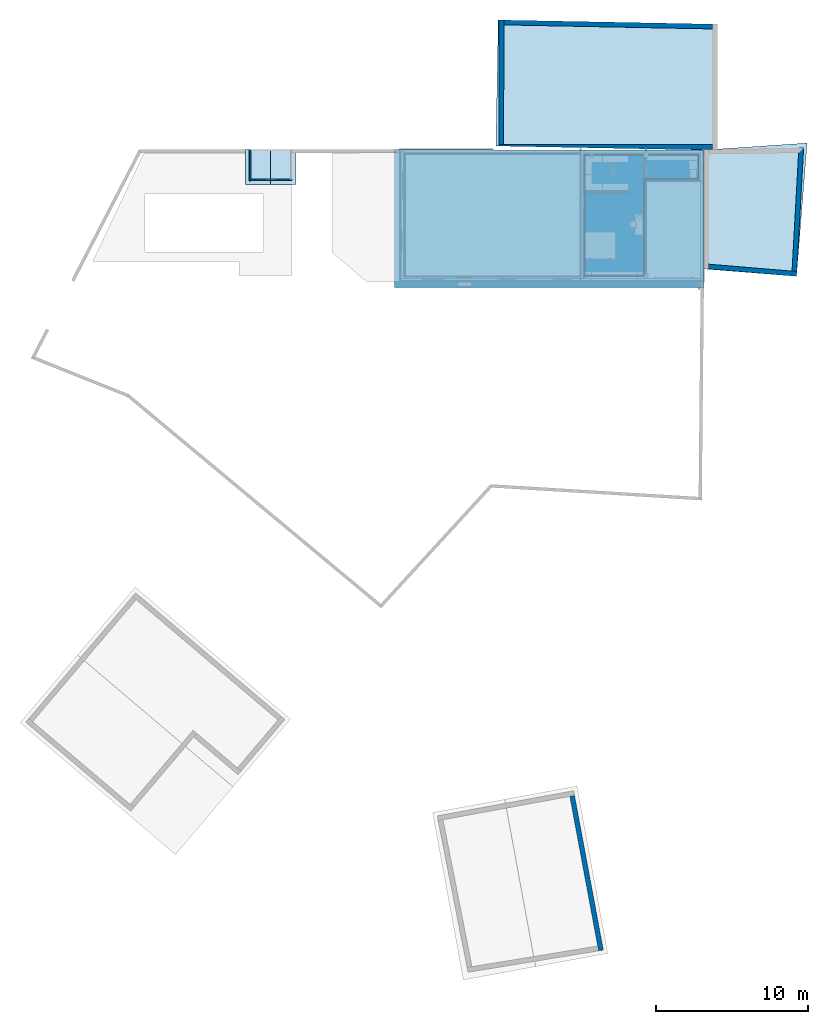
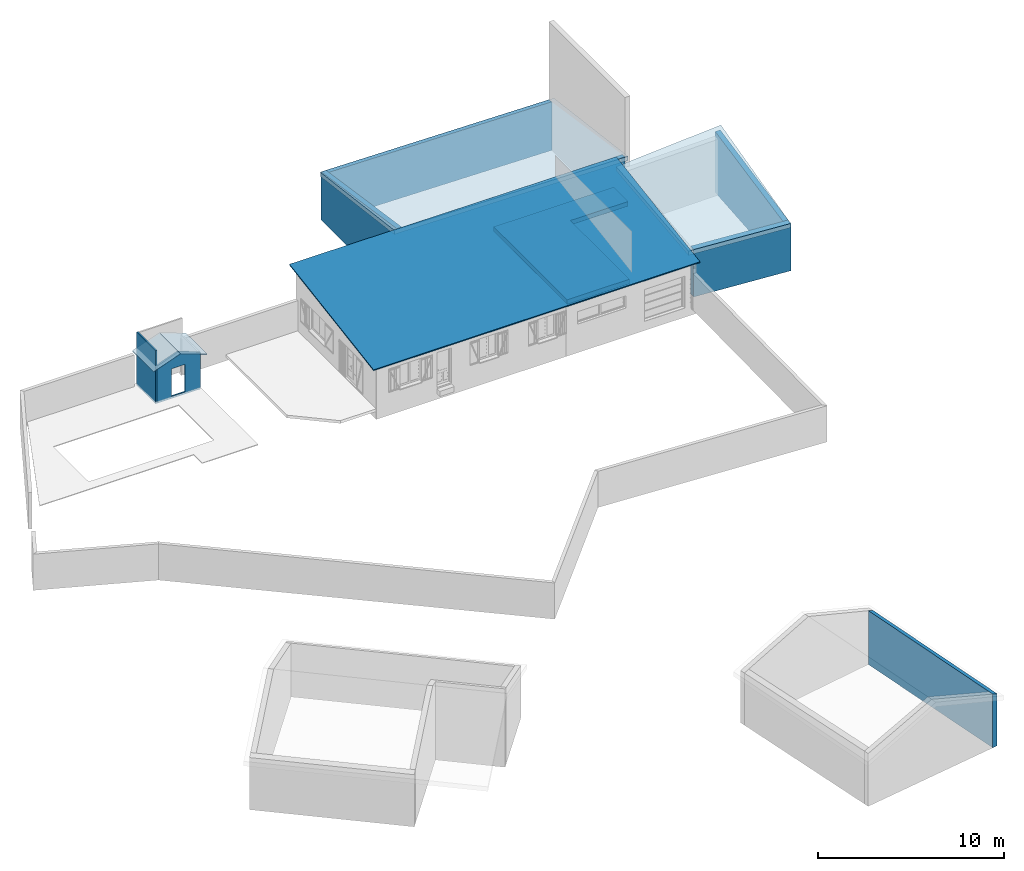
# One storey, part 2 of 24: 8 walls, 5 building element parts, 3 roofs, 1 opening, 2 elements without a shape of their own.
"""IFC2X3 building model written with IfcOpenShell, lengths in metres."""

from ifc_helpers import new_model, entity, si_unit, converted_unit, derived_unit, money_unit, direction, frame, origin_with_axes, origin_2d_with_axis, place, context, subcontext, project, spatial, polyline, rectangle, outline, extrude, boolean, faceted_brep, material, type_object, element, aggregate, save


model = new_model("IFC2X3")

# Units and contexts
model_context = context("Model", 3, precision=1e-05, world=origin_with_axes(), true_north=direction((0.0, 1.0)))
body_context = subcontext(model_context, "Body", "Model", "MODEL_VIEW")
ifc_project = project(units=[si_unit("LENGTHUNIT", "METRE"), si_unit("AREAUNIT", "SQUARE_METRE"), si_unit("VOLUMEUNIT", "CUBIC_METRE"), converted_unit("PLANEANGLEUNIT", "DEGREE", entity("IfcPlaneAngleMeasure", 0.0174532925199), si_unit("PLANEANGLEUNIT", "RADIAN"), dimensions=[0, 0, 0, 0, 0, 0, 0]), si_unit("SOLIDANGLEUNIT", "STERADIAN"), money_unit("CHF"), converted_unit("TIMEUNIT", "Year", entity("IfcTimeMeasure", 31556926.0), si_unit("TIMEUNIT", "SECOND"), dimensions=[0, 0, 1, 0, 0, 0, 0]), si_unit("MASSUNIT", "GRAM", prefix="KILO"), si_unit("THERMODYNAMICTEMPERATUREUNIT", "DEGREE_CELSIUS"), si_unit("LUMINOUSINTENSITYUNIT", "LUMEN"), si_unit("ENERGYUNIT", "JOULE", prefix="MEGA"), derived_unit("THERMALCONDUCTANCEUNIT", [(si_unit("POWERUNIT", "WATT"), 1), (si_unit("LENGTHUNIT", "METRE"), -1), (si_unit("THERMODYNAMICTEMPERATUREUNIT", "KELVIN"), -1)]), derived_unit("SPECIFICHEATCAPACITYUNIT", [(si_unit("ENERGYUNIT", "JOULE"), 1), (si_unit("MASSUNIT", "GRAM", prefix="KILO"), -1), (si_unit("THERMODYNAMICTEMPERATUREUNIT", "KELVIN"), -1)]), derived_unit("MASSDENSITYUNIT", [(si_unit("MASSUNIT", "GRAM", prefix="KILO"), 1), (si_unit("VOLUMEUNIT", "CUBIC_METRE"), -1)])], contexts=[model_context])

# Site, building, storey
site_placement = place(None, origin_with_axes())
site = spatial("IfcSite", under=ifc_project, at=site_placement, Name="Site", CompositionType="ELEMENT")
building_placement = place(site_placement, origin_with_axes())
building = spatial("IfcBuilding", under=site, at=building_placement, Name="Bâtiment", CompositionType="ELEMENT")
storey_placement = place(building_placement, origin_with_axes())
storey = spatial("IfcBuildingStorey", under=building, at=storey_placement, Name="Rez-de-chaussée", CompositionType="ELEMENT", Elevation=0.0)

# Wall
ifc_material_1 = material(Name="Béton")
wall_type_1 = type_object("IfcWallType", Name="Béton 100", PredefinedType="ELEMENTEDWALL")
wall_1_placement = place(storey_placement, frame((1.6564984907, 16.4019624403, -0.13), z_axis=(0.0, 0.0, 1.0), x_axis=(1.70055091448e-08, -1.0, 0.0)))
element("IfcWall", 1, at=wall_1_placement, inside=storey, type_object=wall_type_1, material=ifc_material_1, Name="MUR_EXT-007", ObjectType="ELEMENTEDWALL", context=body_context, shape_type="CSG", body=[
    boolean("DIFFERENCE", extrude(outline(polyline([(-2.00186916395e-05, 0.0), (2.0325136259, 0.0), (2.0325136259, 0.1), (-2.0018691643e-05, 0.1), (-2.00186916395e-05, 0.0)])), origin_with_axes(), (0.0, 0.0, 1.0), 3.49290883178), faceted_brep([(2.0325136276, 0.0999999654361, 2.45409591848), (0.00123415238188, 0.099999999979, 2.45409591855), (0.00122418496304, 0.0999999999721, 2.50409591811), (0.00122418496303, 0.0999999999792, 0.0), (-2.00186916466e-05, 0.1, 0.0), (-2.00186916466e-05, 0.1, 3.49290883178), (2.0325136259, 0.1, 3.49290883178), (2.0325136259, -3.45639290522e-08, 2.41769889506), (0.00129617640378, 0.0, 2.41769889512), (0.0012862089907, 0.0, 2.46769889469), (0.0012862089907, 0.0, 0.0), (-2.00186916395e-05, 0.0, 0.0), (-2.00186916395e-05, 0.0, 3.49290883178), (2.0325136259, 0.0, 3.49290883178)], [[[0, 1, 2, 3, 4, 5, 6]], [[1, 0, 7, 8]], [[2, 1, 8, 9]], [[3, 2, 9, 10]], [[3, 10, 11, 4]], [[5, 4, 11, 12]], [[5, 12, 13, 6]], [[7, 0, 6, 13]], [[8, 7, 13, 12, 11, 10, 9]]])),
])

# Wall, opening
wall_2_placement = place(storey_placement, frame((1.65649852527, 14.3694488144, -0.13), z_axis=(0.0, 0.0, 1.0), x_axis=(1.0, 2.465396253e-08, 0.0)))
wall_2 = element("IfcWall", 2, at=wall_2_placement, inside=storey, type_object=wall_type_1, material=ifc_material_1, Name="MUR_EXT-008", ObjectType="ELEMENTEDWALL", context=body_context, shape_type="CSG", body=[
    boolean("DIFFERENCE", extrude(outline(polyline([(0.0, 0.0), (2.79201338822, 0.0), (2.79201338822, 0.1), (0.0, 0.1), (0.0, 0.0)])), origin_with_axes(), (0.0, 0.0, 1.0), 3.49290883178), faceted_brep([(0.1, -2.46539677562e-09, 2.45409593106), (1.39600669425, -3.44170967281e-08, 2.92580379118), (2.79201338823, -6.88341934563e-08, 2.41769890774), (2.79201338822, 0.0, 3.49290883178), (0.0, 0.0, 3.49290883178), (0.0, 0.0, 0.0), (0.1, -2.46539677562e-09, 0.0), (0.100000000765, 0.0999999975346, 2.45409593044), (1.39600669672, 0.0999999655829, 2.92580379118), (2.79199957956, 0.0999999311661, 2.41770393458), (2.79201338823, -6.88341934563e-08, 0.0), (2.79201338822, 0.1, 0.0), (2.79201338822, 0.1, 3.49290883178), (0.0, 0.1, 3.49290883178), (0.0, 0.1, 0.0), (0.100000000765, 0.0999999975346, 0.0), (2.79199957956, 0.0999999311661, 0.0)], [[[0, 1, 2, 3, 4, 5, 6]], [[7, 8, 1, 0]], [[2, 1, 8, 9]], [[2, 10, 11, 12, 3]], [[13, 4, 3, 12]], [[13, 14, 5, 4]], [[15, 6, 5, 14]], [[15, 7, 0, 6]], [[7, 15, 14, 13, 12, 11, 16, 9, 8]], [[10, 2, 9, 16]], [[10, 16, 11]]])),
])
opening_placement = place(wall_2_placement, frame((-1.65649887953, -14.3694487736, 0.13), z_axis=(0.0, 0.0, 1.0), x_axis=(1.0, -2.465396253e-08, 0.0)))
element("IfcOpeningElement", 3, at=opening_placement, cuts=wall_2, Name="PERCEMENT-001", ObjectType="EMPTY_OPENING", context=body_context, shape_type="SweptSolid", body=[
    extrude(rectangle(XDim=0.842299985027, YDim=1.82087696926, at=origin_2d_with_axis()), frame((3.086344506, 14.2694487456, 0.91043848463), z_axis=(2.465396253e-08, -1.0, 0.0), x_axis=(1.0, 2.465396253e-08, 0.0)), (0.0, 0.0, -1.0), 0.300000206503),
])

# Walls
ifc_material_2 = material(Name="Volume - Etude")
wall_type_2 = type_object("IfcWallType", Name="Volume - Etude 315", PredefinedType="ELEMENTEDWALL")
wall_3_placement = place(storey_placement, frame((32.3813992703, 24.6314048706, -0.13), z_axis=(0.0, 0.0, 1.0), x_axis=(-0.999813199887, 0.0193278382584, 0.0)))
element("IfcWall", 4, at=wall_3_placement, inside=storey, type_object=wall_type_2, material=ifc_material_2, Name="MUR_EXT-024", ObjectType="ELEMENTEDWALL", context=body_context, shape_type="CSG", body=[
    boolean("DIFFERENCE", extrude(outline(polyline([(-0.00562174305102, 0.0), (14.3400398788, 0.0), (14.3400398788, 0.315), (-0.00562174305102, 0.315), (-0.00562174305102, 0.0)])), origin_with_axes(), (0.0, 0.0, 1.0), 8.27830126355), faceted_brep([(14.0249941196, 0.0, 3.14345639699), (14.0249941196, 0.0, 0.0), (14.3400398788, 0.0, 0.0), (14.3400398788, 0.0, 8.27830126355), (-0.00562174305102, 0.0, 8.27830126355), (-0.00562174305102, 0.0, 0.0), (0.315050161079, 0.0, 0.0), (0.315050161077, 0.0, 3.14345639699), (14.019624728, 0.315, 3.19087049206), (14.019624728, 0.315, 0.0), (14.3400398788, 0.315, 0.0), (14.3400398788, 0.315, 8.27830126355), (-0.00562174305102, 0.315, 8.27830126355), (-0.00562174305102, 0.315, 0.0), (0.309428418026, 0.315, 0.0), (0.309428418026, 0.315, 3.19087049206)], [[[0, 1, 2, 3, 4, 5, 6, 7]], [[1, 0, 8, 9]], [[1, 9, 10, 2]], [[3, 2, 10, 11]], [[12, 4, 3, 11]], [[12, 13, 5, 4]], [[14, 6, 5, 13]], [[7, 6, 14, 15]], [[0, 7, 15, 8]], [[15, 14, 13, 12, 11, 10, 9, 8]]])),
])
wall_4_placement = place(storey_placement, frame((31.4871417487, 8.59294063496, -0.13), z_axis=(0.0, 0.0, 1.0), x_axis=(0.996521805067, -0.0833324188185, 0.0)))
element("IfcWall", 5, at=wall_4_placement, inside=storey, type_object=wall_type_2, material=ifc_material_2, Name="MUR_EXT-026", ObjectType="ELEMENTEDWALL", context=body_context, shape_type="CSG", body=[
    boolean("DIFFERENCE", extrude(outline(polyline([(-0.0263413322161, 0.0), (6.10187381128, 0.0), (6.10187381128, 0.315), (-0.0263413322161, 0.315), (-0.0263413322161, 0.0)])), origin_with_axes(), (0.0, 0.0, 1.0), 8.27830126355), faceted_brep([(0.289758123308, 0.315, 3.1627444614), (0.289758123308, 0.315, 0.0), (-0.0263413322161, 0.315, 0.0), (-0.0263413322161, 0.315, 8.27830126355), (6.10187381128, 0.315, 8.27830126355), (6.10187381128, 0.315, 0.0), (6.09301936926, 0.315, 0.0), (6.09301936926, 0.315, 3.14543045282), (0.316099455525, 0.0, 3.12923209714), (0.316099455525, 0.0, 0.0), (-0.0263413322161, 0.0, 0.0), (-0.0263413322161, 0.0, 8.27830126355), (6.10187381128, 0.0, 8.27830126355), (6.10187381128, 0.0, 3.11197026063), (6.10187381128, 0.0, 0.0)], [[[0, 1, 2, 3, 4, 5, 6, 7]], [[1, 0, 8, 9]], [[1, 9, 10, 2]], [[3, 2, 10, 11]], [[3, 11, 12, 4]], [[13, 14, 5, 4, 12]], [[14, 6, 5]], [[7, 6, 14, 13]], [[0, 7, 13, 8]], [[8, 13, 12, 11, 10, 9]]])),
])
wall_5_placement = place(storey_placement, frame((37.5677920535, 8.08445673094, -0.13), z_axis=(0.0, 0.0, 1.0), x_axis=(0.0552990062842, 0.998469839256, 0.0)))
element("IfcWall", 6, at=wall_5_placement, inside=storey, type_object=wall_type_2, material=ifc_material_2, Name="MUR_EXT-027", ObjectType="ELEMENTEDWALL", context=body_context, shape_type="CSG", body=[
    boolean("DIFFERENCE", extrude(outline(polyline([(0.0, 0.0), (8.43274966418, 0.0), (8.43274966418, 0.315), (0.0, 0.315), (0.0, 0.0)])), origin_with_axes(), (0.0, 0.0, 1.0), 8.27830126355), faceted_brep([(0.315124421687, 0.0, 0.0), (0.315124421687, 0.0, 3.14543045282), (8.43274966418, 0.0, 4.00736714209), (8.43274966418, 0.0, 8.27830126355), (0.0, 0.0, 8.27830126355), (0.0, 0.0, 0.0), (0.323978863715, 0.315, 0.0), (0.323978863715, 0.315, 3.14637062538), (8.41041364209, 0.315, 4.00499548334), (8.43274966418, 0.0, 0.0), (8.43274966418, 0.315, 0.0), (8.43274966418, 0.315, 8.27830126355), (0.0, 0.315, 8.27830126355), (0.0, 0.315, 0.0), (8.41041364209, 0.315, 0.0)], [[[0, 1, 2, 3, 4, 5]], [[1, 0, 6, 7]], [[2, 1, 7, 8]], [[2, 9, 10, 11, 3]], [[12, 4, 3, 11]], [[12, 13, 5, 4]], [[6, 0, 5, 13]], [[7, 6, 13, 12, 11, 10, 14, 8]], [[9, 2, 8, 14]], [[9, 14, 10]]])),
])
wall_6_placement = place(storey_placement, frame((22.6856077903, -26.052004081, -0.13), z_axis=(0.0, 0.0, 1.0), x_axis=(0.183208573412, -0.983074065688, 0.0)))
element("IfcWall", 7, at=wall_6_placement, inside=storey, type_object=wall_type_2, material=ifc_material_2, Name="MUR_EXT-018", ObjectType="ELEMENTEDWALL", context=body_context, shape_type="CSG", body=[
    boolean("DIFFERENCE", extrude(outline(polyline([(-0.315000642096, 0.0), (10.3180602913, 0.0), (10.3180602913, 0.315), (-0.315000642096, 0.315), (-0.315000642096, 0.0)])), origin_with_axes(), (0.0, 0.0, 1.0), 8.27830126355), faceted_brep([(10.3180602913, 0.315, 0.0), (10.3180602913, 0.315, 3.42122024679), (10.3180602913, 0.315, 8.27830126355), (10.3180602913, 0.0, 8.27830126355), (10.3180602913, 0.0, 0.0), (10.3112685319, 0.0, 0.0), (10.3112685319, 0.0, 3.53587562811), (0.000636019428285, 0.315, 3.42880246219), (0.000636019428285, 0.315, 0.0), (-0.315000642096, 0.315, 0.0), (-0.315000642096, 0.315, 8.27830126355), (-0.315000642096, 0.0, 8.27830126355), (-0.315000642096, 0.0, 0.0), (0.0, 0.0, 0.0), (0.0, 0.0, 3.54345331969)], [[[0, 1, 2, 3, 4]], [[1, 0, 5, 6]], [[7, 8, 9, 10, 2, 1]], [[10, 11, 3, 2]], [[6, 5, 4, 3, 11, 12, 13, 14]], [[5, 0, 4]], [[7, 1, 6, 14]], [[8, 7, 14, 13]], [[8, 13, 12, 9]], [[10, 9, 12, 11]]])),
])
wall_7_placement = place(storey_placement, frame((18.0440403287, 24.9095367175, -0.13), z_axis=(0.0, 0.0, 1.0), x_axis=(-0.00228500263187, -0.999997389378, 0.0)))
element("IfcWall", 8, at=wall_7_placement, inside=storey, type_object=wall_type_2, material=ifc_material_2, Name="MUR_EXT-021", ObjectType="ELEMENTEDWALL", context=body_context, shape_type="CSG", body=[
    boolean("DIFFERENCE", extrude(outline(polyline([(0.0, 0.0), (8.81662508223, 0.0), (8.81662508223, 0.315), (0.0, 0.315), (0.0, 0.0)])), origin_with_axes(), (0.0, 0.0, 1.0), 8.27830126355), faceted_brep([(8.18590365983, 0.315, 5.7817216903e-08), (8.18590365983, 0.315, 4.37447326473), (0.00633926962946, 0.315, 3.14345639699), (0.00633926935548, 0.315, 2.85929097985), (0.00633926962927, 0.315, 0.0), (0.0, 0.315, 0.0), (0.0, 0.315, 8.27830126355), (8.81662508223, 0.315, 8.27830126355), (8.81662508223, 0.315, 0.0), (8.18662343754, 0.0, 6.14253671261e-08), (8.18662343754, 0.0, 4.37538967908), (0.000969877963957, 0.0, 3.14345639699), (0.000969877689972, 0.0, 2.85929097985), (0.000969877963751, 0.0, 0.0), (0.0, 0.0, 0.0), (0.0, 0.0, 8.27830126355), (8.81662508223, 0.0, 8.27830126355), (8.81662508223, 0.0, 0.0)], [[[0, 1, 2, 3, 4, 5, 6, 7, 8]], [[1, 0, 9, 10]], [[2, 1, 10, 11]], [[3, 2, 11, 12]], [[4, 3, 12, 13]], [[4, 13, 14, 5]], [[6, 5, 14, 15]], [[6, 15, 16, 7]], [[16, 17, 8, 7]], [[9, 0, 8, 17]], [[10, 9, 17, 16, 15, 14, 13, 12, 11]]])),
])
wall_8_placement = place(storey_placement, frame((18.0246140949, 16.4079346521, -0.13), z_axis=(0.0, 0.0, 1.0), x_axis=(1.0, 0.0, 0.0)))
element("IfcWall", 9, at=wall_8_placement, inside=storey, type_object=wall_type_2, material=ifc_material_2, Name="MUR_EXT-022", ObjectType="ELEMENTEDWALL", context=body_context, shape_type="CSG", body=[
    boolean("DIFFERENCE", extrude(outline(polyline([(0.0, 0.0), (14.3450479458, 0.0), (14.3450479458, 0.315), (0.0, 0.315), (0.0, 0.0)])), origin_with_axes(), (0.0, 0.0, 1.0), 8.27830126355), faceted_brep([(14.0300475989, 0.315, 4.33457493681), (0.0, 0.315, 4.37539177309), (0.0, 0.315, 8.27830126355), (14.3450479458, 0.315, 8.27830126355), (14.3450479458, 0.315, 0.0), (14.0300475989, 0.315, 0.0), (14.0295800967, 0.0, 4.381981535), (11.8231119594, 0.0, 4.3884006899), (0.0, 0.228557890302, 4.3884006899), (0.0, 0.228557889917, 4.10423527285), (0.0, 0.228557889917, 0.0), (0.0, 0.0, 0.0), (0.0, 0.0, 8.27830126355), (14.3450479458, 0.0, 8.27830126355), (14.3450479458, 0.0, 0.0), (14.0295800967, 0.0, 0.0), (11.8231119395, 0.0, 0.0), (11.8231119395, 0.0, 4.10423527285)], [[[0, 1, 2, 3, 4, 5]], [[1, 0, 6, 7, 8]], [[9, 10, 11, 12, 2, 1, 8]], [[2, 12, 13, 3]], [[13, 14, 4, 3]], [[15, 5, 4, 14]], [[0, 5, 15, 6]], [[6, 15, 14, 13, 12, 11, 16, 17, 7]], [[7, 17, 9, 8]], [[17, 16, 10, 9]], [[10, 16, 11]]])),
])

# Roofs
roof_1_placement = place(storey_placement, frame((17.9871417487, 24.9096667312, 2.72929098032), z_axis=(0.0, 0.0, 1.0), x_axis=(0.999813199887, -0.0193278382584, 0.0)))
element("IfcRoof", 10, at=roof_1_placement, inside=storey, material=ifc_material_2, Name="TOIT-004", ShapeType="NOTDEFINED", context=body_context, shape_type="SweptSolid", body=[
    extrude(outline(polyline([(0.0, 0.0), (0.0, -8.36407481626), (14.3969468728, -8.36407481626), (14.3969468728, 0.0), (0.0, 0.0)])), frame((0.0, 0.0, 0.0), z_axis=(0.0, 0.148844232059, 0.988860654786), x_axis=(1.0, 0.0, 0.0)), (0.0, -0.148844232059, 0.988860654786), 0.284165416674),
])
ifc_material_3 = material(Name="Tuile terre-cuite")
roof_2_placement = place(storey_placement, frame((3.05250521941, 15.2510121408, 2.28769890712), z_axis=(0.0, 0.0, 1.0), x_axis=(1.0, 0.0, 0.0)))
element("IfcRoof", 11, at=roof_2_placement, inside=storey, material=ifc_material_3, Name="TOIT-005", ShapeType="NOTDEFINED", context=body_context, shape_type="Brep", body=[
    faceted_brep([(-1.66600669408, -1.15156332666, -0.048271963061), (1.0777512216e-10, -1.15156332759, 0.558104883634), (1.12103215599e-10, 1.15052997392, 0.558104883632), (-1.66600669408, 1.14949662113, -0.048271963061), (-1.66600669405, -1.15156332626, -0.0982719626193), (1.12100995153e-10, -1.15156332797, 0.508104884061), (1.57876594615, 1.1515092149, -0.0165189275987), (1.66600669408, -1.15156332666, -0.048271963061), (1.66600669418, 1.1515092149, -0.0482719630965), (1.12100995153e-10, 1.15052000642, 0.508104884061), (-1.66600669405, 1.14948665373, -0.0982719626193), (1.66600669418, -1.15156332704, -0.0982719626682), (1.56269625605, 1.1515092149, -0.0606700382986), (1.12100995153e-10, 1.15053994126, 0.508104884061), (1.66600669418, 1.1515092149, -0.0982719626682)], [[[0, 1, 2, 3]], [[4, 5, 1, 0]], [[6, 2, 1, 7, 8]], [[3, 2, 9, 10]], [[10, 4, 0, 3]], [[10, 9, 5, 4]], [[7, 1, 5, 11]], [[12, 13, 2, 6]], [[11, 14, 8, 7]], [[14, 12, 6, 8]], [[13, 9, 2]], [[11, 5, 9, 13, 12, 14]]]),
])
roof_3_placement = place(storey_placement, frame((37.6189175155, 9.97696773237, 2.90033186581), z_axis=(0.0, 0.0, 1.0), x_axis=(-0.998469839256, 0.0552990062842, 0.0)))
element("IfcRoof", 12, at=roof_3_placement, inside=storey, material=ifc_material_2, Name="TOIT-003", ShapeType="NOTDEFINED", context=body_context, shape_type="SweptSolid", body=[
    extrude(outline(polyline([(-0.0536067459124, 1.90308050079), (-0.263529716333, -6.91784574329), (6.47626669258, -6.08441328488), (6.05502696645, 1.75770545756), (-0.0536067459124, 1.90308050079)])), frame((0.0, 0.0, 0.0), z_axis=(0.0, 0.105587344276, 0.994410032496), x_axis=(1.0, 0.0, 0.0)), (0.0, -0.105587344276, 0.994410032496), 0.282579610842),
])

# Roof, building element parts
roof_4_placement = place(storey_placement, frame((11.5671417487, 7.7379346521, 3.04), z_axis=(0.0, 0.0, 1.0), x_axis=(1.0, 0.0, 0.0)))
roof_4 = element("IfcRoof", 13, at=roof_4_placement, inside=storey, Name="TOIT-006", ShapeType="NOTDEFINED")
ifc_material_4 = material(Name="Etanchéité")
building_element_part_1_placement = place(roof_4_placement, origin_with_axes())
building_element_part_1 = element("IfcBuildingElementPart", 14, at=building_element_part_1_placement, material=ifc_material_4, Name="Etanchéité", context=body_context, shape_type="SweptSolid", body=[
    extrude(outline(polyline([(-0.4, -0.405087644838), (19.92, -0.405087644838), (19.92, 8.73231500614), (-0.4, 8.78027470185), (-0.4, -0.405087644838)])), frame((0.0, 0.0, 0.0), z_axis=(0.0, -0.157990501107, 0.987440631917), x_axis=(1.0, 0.0, 0.0)), (0.0, 0.157990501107, 0.987440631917), 0.0101271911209),
])
ifc_material_5 = material(Name="Bois - Liteaux")
building_element_part_2_placement = place(roof_4_placement, origin_with_axes())
building_element_part_2 = element("IfcBuildingElementPart", 15, at=building_element_part_2_placement, material=ifc_material_5, Name="Bois - Liteaux", context=body_context, shape_type="SweptSolid", body=[
    extrude(outline(polyline([(-0.4, -0.405087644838), (19.92, -0.405087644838), (19.92, 8.73231500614), (-0.4, 8.78027470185), (-0.4, -0.405087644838)])), frame((0.0, 0.0, 0.0101271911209), z_axis=(0.0, -0.157990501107, 0.987440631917), x_axis=(1.0, 0.0, 0.0)), (0.0, 0.157990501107, 0.987440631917), 0.0253179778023),
])
building_element_part_3_placement = place(roof_4_placement, origin_with_axes())
building_element_part_3 = element("IfcBuildingElementPart", 16, at=building_element_part_3_placement, material=ifc_material_3, Name="Tuile terre-cuite", context=body_context, shape_type="SweptSolid", body=[
    extrude(outline(polyline([(-0.4, -0.405087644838), (19.92, -0.405087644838), (19.92, 8.73231500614), (-0.4, 8.78027470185), (-0.4, -0.405087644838)])), frame((0.0, 0.0, 0.0354451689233), z_axis=(0.0, -0.157990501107, 0.987440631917), x_axis=(1.0, 0.0, 0.0)), (0.0, 0.157990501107, 0.987440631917), 0.0354451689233),
])
aggregate(roof_4, [building_element_part_1, building_element_part_2, building_element_part_3])

roof_5_placement = place(storey_placement, frame((23.6671417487, 8.1079346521, 2.5), z_axis=(0.0, 0.0, 1.0), x_axis=(1.0, 0.0, 0.0)))
roof_5 = element("IfcRoof", 17, at=roof_5_placement, inside=storey, Name="TOIT-008", ShapeType="NOTDEFINED")
ifc_material_6 = material(Name="Finition int - Plaque de plâtre")
building_element_part_4_placement = place(roof_5_placement, origin_with_axes())
building_element_part_4 = element("IfcBuildingElementPart", 18, at=building_element_part_4_placement, material=ifc_material_6, Name="Finition int - Plaque de plâtre", context=body_context, shape_type="SweptSolid", body=[
    extrude(outline(polyline([(0.0, 0.0), (3.875, 0.0), (3.875, 6.36818855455), (7.465, 6.35859041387), (7.465, 7.93), (0.0, 7.93), (0.0, 0.0)])), origin_with_axes(), (0.0, 0.0, 1.0), 0.00999999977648),
])
ifc_material_7 = material(Name="Isolation - Laine de verre")
building_element_part_5_placement = place(roof_5_placement, origin_with_axes())
building_element_part_5 = element("IfcBuildingElementPart", 19, at=building_element_part_5_placement, material=ifc_material_7, Name="Isolation - Laine de verre", context=body_context, shape_type="SweptSolid", body=[
    extrude(outline(polyline([(0.0, 0.0), (3.875, 0.0), (3.875, 6.36818855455), (7.465, 6.35859041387), (7.465, 7.93), (0.0, 7.93), (0.0, 0.0)])), frame((0.0, 0.0, 0.00999999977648), z_axis=(0.0, 0.0, 1.0), x_axis=(1.0, 0.0, 0.0)), (0.0, 0.0, 1.0), 0.3),
])
aggregate(roof_5, [building_element_part_4, building_element_part_5])

save(model, "model.ifc")
